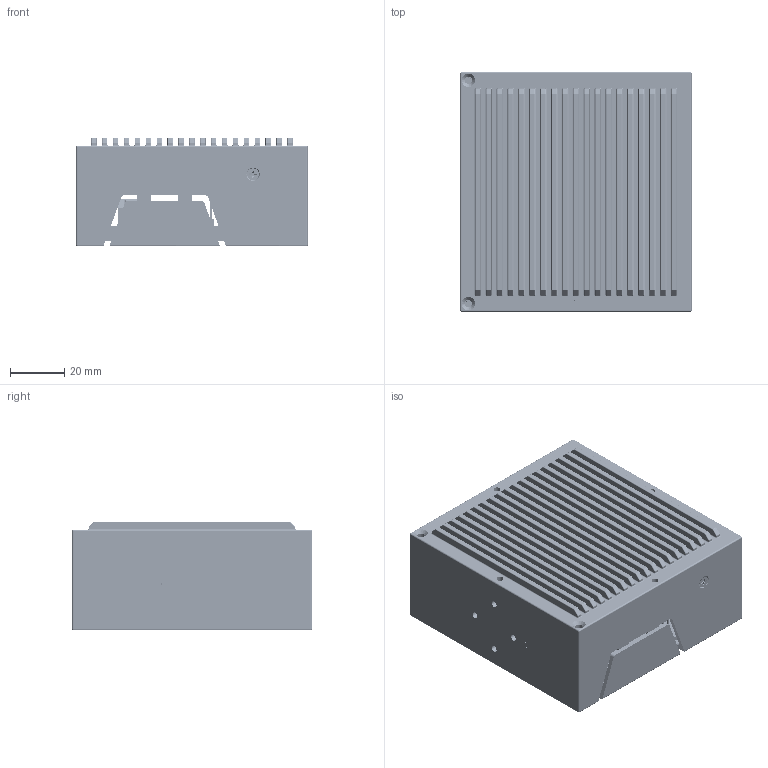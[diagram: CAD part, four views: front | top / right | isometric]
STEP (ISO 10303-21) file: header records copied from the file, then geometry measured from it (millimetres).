
FILE_DESCRIPTION (( 'STEP AP214' ), '1' );
FILE_NAME ('EM-D311-3.STEP', '2024-10-15T08:23:06', ( '' ), ( '' ), 'SwSTEP 2.0', 'SolidWorks 2020', '' );
FILE_SCHEMA (( 'AUTOMOTIVE_DESIGN' ));
Length unit declared in the file: millimetre
Products named in the file (12): EM-D311A-______A_O.STEP__A_O.STEP_蕼偞; ________A_O.STEP__A_O.STEP_蕼偞; PCB2__A_O.STEP__A_O.STEP_蕼偞; EAST-HD6610A0002 HDMI A TYPE ____DIP____7.80 ____2.3.stp.STEP__A_O.STEP_蕼偞; EM-D311-3; EM-D311A-______.STEP.STEP; USB 2.0-2 -001  062901-01.STEP__A_O.STEP_蕼偞; ____10P__________________3.5______8.2________.stp.STEP__A_O.STEP_蕼偞; EM-D311A-______A_O-0.STEP__A_O.STEP_蕼偞; ____ KB2.5x4-____________.STEP_蕼偞; EM-D311A-________A_O-1.STEP__A_O.STEP_蕼偞; EM-D311A-________A_O.STEP__A_O.STEP_蕼偞
Assembly tree (16 placements, depth 3):
  EM-D311-3
    EM-D311A-______.STEP.STEP
      EM-D311A-______A_O.STEP__A_O.STEP_蕼偞
      EM-D311A-______A_O-0.STEP__A_O.STEP_蕼偞
      EM-D311A-________A_O.STEP__A_O.STEP_蕼偞
      EM-D311A-________A_O-1.STEP__A_O.STEP_蕼偞
    PCB2__A_O.STEP__A_O.STEP_蕼偞
    EAST-HD6610A0002 HDMI A TYPE ____DIP____7.80 ____2.3.stp.STEP__A_O.STEP_蕼偞
    USB 2.0-2 -001  062901-01.STEP__A_O.STEP_蕼偞
    ____10P__________________3.5______8.2________.stp.STEP__A_O.STEP_蕼偞  x3
    ________A_O.STEP__A_O.STEP_蕼偞
    ____ KB2.5x4-____________.STEP_蕼偞  x4
Bounding box: 85.14 x 88 x 40.01 mm (x, y, z)
Volume: 108424.6 mm3; surface area: 117029.8 mm2
Topology: 90 solids, 150 shells, 11990 faces, 33379 edges, 21435 vertices
Faces by surface type: plane 7836, cylinder 2664, bspline 1031, sphere 206, torus 151, cone 102
Entity records: 286820 total; most frequent: CARTESIAN_POINT 78874, ORIENTED_EDGE 44668, DIRECTION 38005, EDGE_CURVE 22334, VECTOR 15655, LINE 15655, VERTEX_POINT 14315, AXIS2_PLACEMENT_3D 11175
